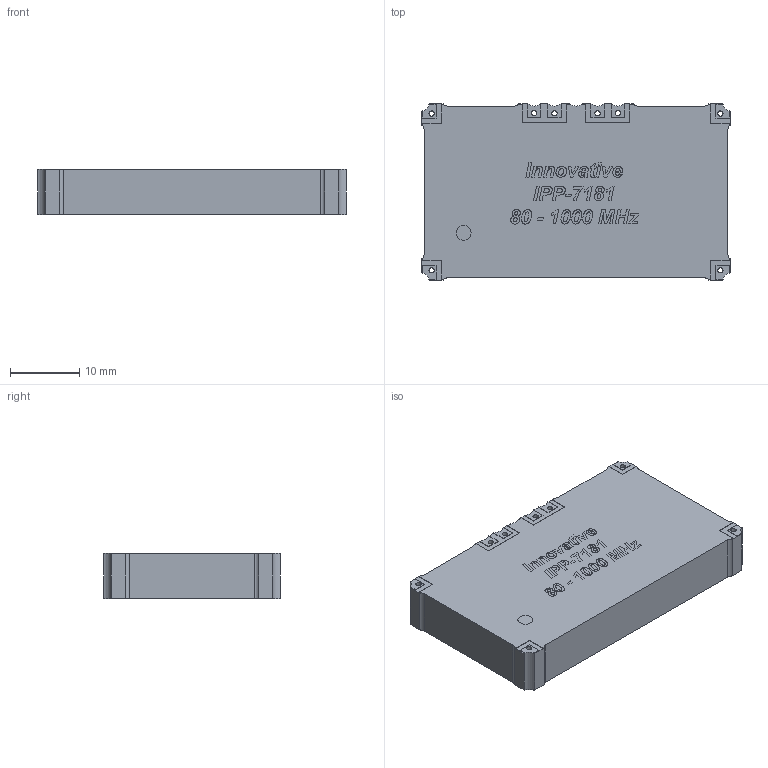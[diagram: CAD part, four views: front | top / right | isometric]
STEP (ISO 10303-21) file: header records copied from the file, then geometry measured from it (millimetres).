
FILE_DESCRIPTION(/* description */ (''),/* implementation_level */ '2;1');
FILE_NAME(/* name */ 'IPP-7181.stp',/* time_stamp */ '2025-06-18T10:15:26-04:00',/* author */ ('scornell'),/* organization */ (''),/* preprocessor_version */ 'ST-DEVELOPER v20',/* originating_system */ 'Autodesk Inventor 2025',/* authorisation */ '');
FILE_SCHEMA (('AUTOMOTIVE_DESIGN { 1 0 10303 214 3 1 1 }'));
Length unit declared in the file: inch
Products named in the file (1): IPP-7181_STP_1
Bounding box: 44.45 x 25.4 x 6.61 mm (x, y, z)
Surface area: 3237.5 mm2 (no closed solid volume)
Topology: 0 solids, 1 shells, 540 faces, 1471 edges, 976 vertices
Faces by surface type: plane 343, bspline 169, cylinder 28
Full cylindrical faces by diameter (mm): 0.762 x8, 2.156 x1
Entity records: 17661 total; most frequent: CARTESIAN_POINT 4997, ORIENTED_EDGE 2942, DIRECTION 1973, EDGE_CURVE 1471, LINE 1037, VECTOR 1037, VERTEX_POINT 976, EDGE_LOOP 599
